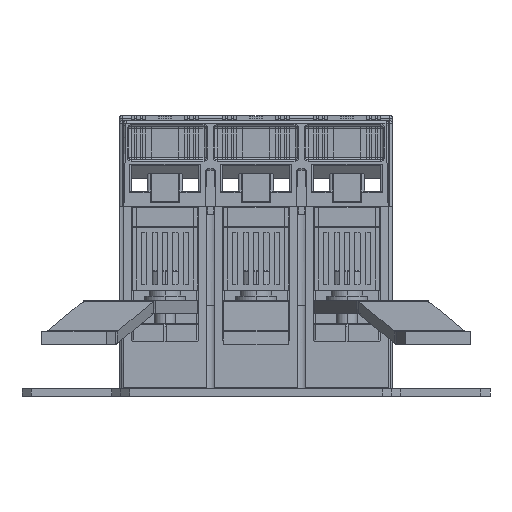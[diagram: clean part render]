
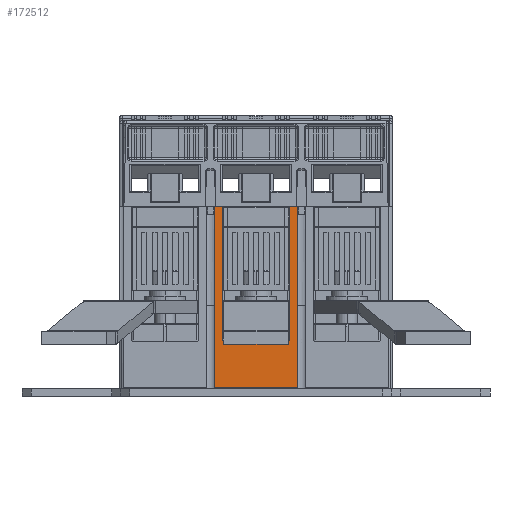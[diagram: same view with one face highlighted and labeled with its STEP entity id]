
A CAD part, front view. The second image highlights one B-rep face of the part: STEP entity #172512.
In plain terms, the highlighted planar face has unit normal (0, -1, 0).
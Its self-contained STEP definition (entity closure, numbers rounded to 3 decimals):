
#84556 = CARTESIAN_POINT ( 'NONE',  ( -4.588, -169.968, -33.499 ) ) ;
#84557 = DIRECTION ( 'NONE',  ( 0., -1., 0. ) ) ;
#84558 = DIRECTION ( 'NONE',  ( -1., 0., 0. ) ) ;
#84906 = CARTESIAN_POINT ( 'NONE',  ( -28.588, -169.968, -33.499 ) ) ;
#84909 = DIRECTION ( 'NONE',  ( 0., -1., 0. ) ) ;
#84912 = DIRECTION ( 'NONE',  ( -1., 0., 0. ) ) ;
#85141 = LINE ( 'NONE', #85144, #157451 ) ;
#85144 = CARTESIAN_POINT ( 'NONE',  ( -3.588, -169.968, -34.499 ) ) ;
#85147 = DIRECTION ( 'NONE',  ( 1., 0., 0. ) ) ;
#100872 = EDGE_CURVE ( 'NONE', #126891, #127650, #157288, .T. ) ;
#101027 = EDGE_CURVE ( 'NONE', #127426, #197106, #157414, .T. ) ;
#101089 = EDGE_CURVE ( 'NONE', #197106, #126891, #85141, .T. ) ;
#124549 = EDGE_CURVE ( 'NONE', #177278, #177491, #138281, .T. ) ;
#124562 = EDGE_CURVE ( 'NONE', #177034, #177278, #138315, .T. ) ;
#124567 = EDGE_CURVE ( 'NONE', #177034, #127650, #138298, .T. ) ;
#124571 = EDGE_CURVE ( 'NONE', #176352, #127426, #138329, .T. ) ;
#124572 = EDGE_CURVE ( 'NONE', #176352, #176331, #138352, .T. ) ;
#124573 = EDGE_CURVE ( 'NONE', #177660, #176331, #138362, .T. ) ;
#124575 = EDGE_CURVE ( 'NONE', #177491, #177660, #138326, .T. ) ;
#126891 = VERTEX_POINT ( 'NONE', #142686 ) ;
#127426 = VERTEX_POINT ( 'NONE', #142914 ) ;
#127650 = VERTEX_POINT ( 'NONE', #143039 ) ;
#131191 = CARTESIAN_POINT ( 'NONE',  ( -32.588, -169.968, 17.501 ) ) ;
#131201 = CARTESIAN_POINT ( 'NONE',  ( -29.588, -169.968, 17.501 ) ) ;
#131506 = CARTESIAN_POINT ( 'NONE',  ( -3.588, -169.968, 17.501 ) ) ;
#131606 = CARTESIAN_POINT ( 'NONE',  ( -0.588, -169.968, 17.501 ) ) ;
#131686 = CARTESIAN_POINT ( 'NONE',  ( -0.588, -169.968, -51.999 ) ) ;
#131747 = CARTESIAN_POINT ( 'NONE',  ( -32.588, -169.968, -51.999 ) ) ;
#132108 = CARTESIAN_POINT ( 'NONE',  ( -28.588, -169.968, -34.499 ) ) ;
#138281 = LINE ( 'NONE', #138284, #138931 ) ;
#138284 = CARTESIAN_POINT ( 'NONE',  ( -0.588, -169.968, 17.501 ) ) ;
#138286 = DIRECTION ( 'NONE',  ( 0., 0., -1. ) ) ;
#138289 = CARTESIAN_POINT ( 'NONE',  ( -3.588, -169.968, 17.501 ) ) ;
#138298 = LINE ( 'NONE', #138289, #138964 ) ;
#138315 = LINE ( 'NONE', #138320, #138957 ) ;
#138320 = CARTESIAN_POINT ( 'NONE',  ( -3.588, -169.968, 17.501 ) ) ;
#138322 = DIRECTION ( 'NONE',  ( 1., 0., 0. ) ) ;
#138326 = LINE ( 'NONE', #138374, #138970 ) ;
#138329 = LINE ( 'NONE', #138343, #138948 ) ;
#138341 = DIRECTION ( 'NONE',  ( 0., 0., -1. ) ) ;
#138343 = CARTESIAN_POINT ( 'NONE',  ( -29.588, -169.968, 17.501 ) ) ;
#138349 = DIRECTION ( 'NONE',  ( 0., 0., -1. ) ) ;
#138352 = LINE ( 'NONE', #138357, #138975 ) ;
#138357 = CARTESIAN_POINT ( 'NONE',  ( -69.088, -169.968, 17.501 ) ) ;
#138360 = DIRECTION ( 'NONE',  ( -1., 0., 0. ) ) ;
#138362 = LINE ( 'NONE', #138368, #138978 ) ;
#138368 = CARTESIAN_POINT ( 'NONE',  ( -32.588, -169.968, 17.501 ) ) ;
#138371 = DIRECTION ( 'NONE',  ( 0., 0., 1. ) ) ;
#138374 = CARTESIAN_POINT ( 'NONE',  ( -3.588, -169.968, -51.999 ) ) ;
#138380 = DIRECTION ( 'NONE',  ( -1., 0., 0. ) ) ;
#138931 = VECTOR ( 'NONE', #138286, 1000. ) ;
#138948 = VECTOR ( 'NONE', #138349, 1000. ) ;
#138957 = VECTOR ( 'NONE', #138322, 1000. ) ;
#138964 = VECTOR ( 'NONE', #138341, 1000. ) ;
#138970 = VECTOR ( 'NONE', #138380, 1000. ) ;
#138975 = VECTOR ( 'NONE', #138360, 1000. ) ;
#138978 = VECTOR ( 'NONE', #138371, 1000. ) ;
#142686 = CARTESIAN_POINT ( 'NONE',  ( -4.588, -169.968, -34.499 ) ) ;
#142914 = CARTESIAN_POINT ( 'NONE',  ( -29.588, -169.968, -33.499 ) ) ;
#143039 = CARTESIAN_POINT ( 'NONE',  ( -3.588, -169.968, -33.499 ) ) ;
#157288 = CIRCLE ( 'NONE', #157294, 1. ) ;
#157294 = AXIS2_PLACEMENT_3D ( 'NONE', #84556, #84557, #84558 ) ;
#157414 = CIRCLE ( 'NONE', #157418, 1. ) ;
#157418 = AXIS2_PLACEMENT_3D ( 'NONE', #84906, #84909, #84912 ) ;
#157451 = VECTOR ( 'NONE', #85147, 1000. ) ;
#172512 = ADVANCED_FACE ( 'NONE', ( #206110 ), #206115, .F. ) ;
#176331 = VERTEX_POINT ( 'NONE', #131191 ) ;
#176352 = VERTEX_POINT ( 'NONE', #131201 ) ;
#177034 = VERTEX_POINT ( 'NONE', #131506 ) ;
#177278 = VERTEX_POINT ( 'NONE', #131606 ) ;
#177491 = VERTEX_POINT ( 'NONE', #131686 ) ;
#177660 = VERTEX_POINT ( 'NONE', #131747 ) ;
#189097 = EDGE_LOOP ( 'NONE', ( #229110, #229112, #229115, #229118, #229121, #229125, #229128, #229132, #229135, #229138 ) ) ;
#197106 = VERTEX_POINT ( 'NONE', #132108 ) ;
#206110 = FACE_OUTER_BOUND ( 'NONE', #189097, .T. ) ;
#206115 = PLANE ( 'NONE',  #228632 ) ;
#206163 = CARTESIAN_POINT ( 'NONE',  ( -3.588, -169.968, 17.501 ) ) ;
#206167 = DIRECTION ( 'NONE',  ( 0., 1., 0. ) ) ;
#206171 = DIRECTION ( 'NONE',  ( -1., 0., 0. ) ) ;
#228632 = AXIS2_PLACEMENT_3D ( 'NONE', #206163, #206167, #206171 ) ;
#229110 = ORIENTED_EDGE ( 'NONE', *, *, #124549, .F. ) ;
#229112 = ORIENTED_EDGE ( 'NONE', *, *, #124562, .F. ) ;
#229115 = ORIENTED_EDGE ( 'NONE', *, *, #124567, .T. ) ;
#229118 = ORIENTED_EDGE ( 'NONE', *, *, #100872, .F. ) ;
#229121 = ORIENTED_EDGE ( 'NONE', *, *, #101089, .F. ) ;
#229125 = ORIENTED_EDGE ( 'NONE', *, *, #101027, .F. ) ;
#229128 = ORIENTED_EDGE ( 'NONE', *, *, #124571, .F. ) ;
#229132 = ORIENTED_EDGE ( 'NONE', *, *, #124572, .T. ) ;
#229135 = ORIENTED_EDGE ( 'NONE', *, *, #124573, .F. ) ;
#229138 = ORIENTED_EDGE ( 'NONE', *, *, #124575, .F. ) ;
